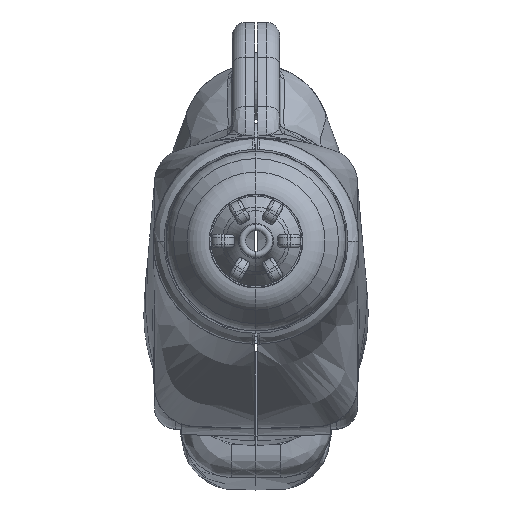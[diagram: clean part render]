
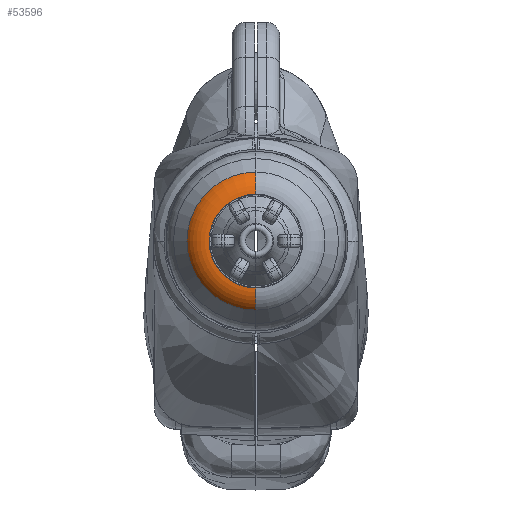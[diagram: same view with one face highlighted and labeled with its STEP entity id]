
A CAD part, top view. The second image highlights one B-rep face of the part: STEP entity #53596.
In plain terms, the highlighted toroidal (fillet/blend) face has major radius 6.92 mm and minor radius 4 mm.
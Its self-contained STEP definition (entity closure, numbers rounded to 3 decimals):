
#2053 = ORIENTED_EDGE ( 'NONE', *, *, #71205, .F. ) ;
#4538 = CARTESIAN_POINT ( 'NONE',  ( 526.332, 118.759, 357.326 ) ) ;
#6372 = CARTESIAN_POINT ( 'NONE',  ( 526.332, 122.034, 355.028 ) ) ;
#9770 = CARTESIAN_POINT ( 'NONE',  ( 526.332, 128.954, 355.028 ) ) ;
#11656 = CIRCLE ( 'NONE', #23407, 4. ) ;
#11760 = ORIENTED_EDGE ( 'NONE', *, *, #18156, .F. ) ;
#12078 = EDGE_LOOP ( 'NONE', ( #2053, #77569, #11760, #29847 ) ) ;
#14956 = DIRECTION ( 'NONE',  ( 0., -1., 0. ) ) ;
#15340 = DIRECTION ( 'NONE',  ( 0., 0., 1. ) ) ;
#15639 = EDGE_CURVE ( 'NONE', #26909, #39612, #11656, .T. ) ;
#15899 = AXIS2_PLACEMENT_3D ( 'NONE', #9770, #58761, #78298 ) ;
#17430 = DIRECTION ( 'NONE',  ( 0., 0., -1. ) ) ;
#17840 = DIRECTION ( 'NONE',  ( 0., 1., 0. ) ) ;
#18156 = EDGE_CURVE ( 'NONE', #48082, #39612, #36840, .T. ) ;
#19461 = DIRECTION ( 'NONE',  ( 0., 0., -1. ) ) ;
#22509 = AXIS2_PLACEMENT_3D ( 'NONE', #79822, #17430, #17840 ) ;
#23407 = AXIS2_PLACEMENT_3D ( 'NONE', #73715, #68023, #24350 ) ;
#24350 = DIRECTION ( 'NONE',  ( 0., 0., 1. ) ) ;
#25438 = CARTESIAN_POINT ( 'NONE',  ( 526.332, 135.874, 359.028 ) ) ;
#26909 = VERTEX_POINT ( 'NONE', #25438 ) ;
#29847 = ORIENTED_EDGE ( 'NONE', *, *, #59335, .F. ) ;
#31646 = CIRCLE ( 'NONE', #64213, 6.92 ) ;
#32947 = CARTESIAN_POINT ( 'NONE',  ( 526.332, 128.954, 359.028 ) ) ;
#35729 = AXIS2_PLACEMENT_3D ( 'NONE', #6372, #61464, #19461 ) ;
#36840 = CIRCLE ( 'NONE', #22509, 10.195 ) ;
#39612 = VERTEX_POINT ( 'NONE', #51043 ) ;
#48082 = VERTEX_POINT ( 'NONE', #4538 ) ;
#51043 = CARTESIAN_POINT ( 'NONE',  ( 526.332, 139.148, 357.326 ) ) ;
#52450 = TOROIDAL_SURFACE ( 'NONE', #15899, 6.92, 4. ) ;
#53596 = ADVANCED_FACE ( 'NONE', ( #66120 ), #52450, .T. ) ;
#58733 = VERTEX_POINT ( 'NONE', #76977 ) ;
#58761 = DIRECTION ( 'NONE',  ( 0., 0., -1. ) ) ;
#59335 = EDGE_CURVE ( 'NONE', #58733, #48082, #80028, .T. ) ;
#61464 = DIRECTION ( 'NONE',  ( 1., 0., 0. ) ) ;
#64213 = AXIS2_PLACEMENT_3D ( 'NONE', #32947, #15340, #14956 ) ;
#66120 = FACE_OUTER_BOUND ( 'NONE', #12078, .T. ) ;
#68023 = DIRECTION ( 'NONE',  ( -1., 0., 0. ) ) ;
#71205 = EDGE_CURVE ( 'NONE', #26909, #58733, #31646, .T. ) ;
#73715 = CARTESIAN_POINT ( 'NONE',  ( 526.332, 135.874, 355.028 ) ) ;
#76977 = CARTESIAN_POINT ( 'NONE',  ( 526.332, 122.034, 359.028 ) ) ;
#77569 = ORIENTED_EDGE ( 'NONE', *, *, #15639, .T. ) ;
#78298 = DIRECTION ( 'NONE',  ( 0., -1., 0. ) ) ;
#79822 = CARTESIAN_POINT ( 'NONE',  ( 526.332, 128.954, 357.326 ) ) ;
#80028 = CIRCLE ( 'NONE', #35729, 4. ) ;
